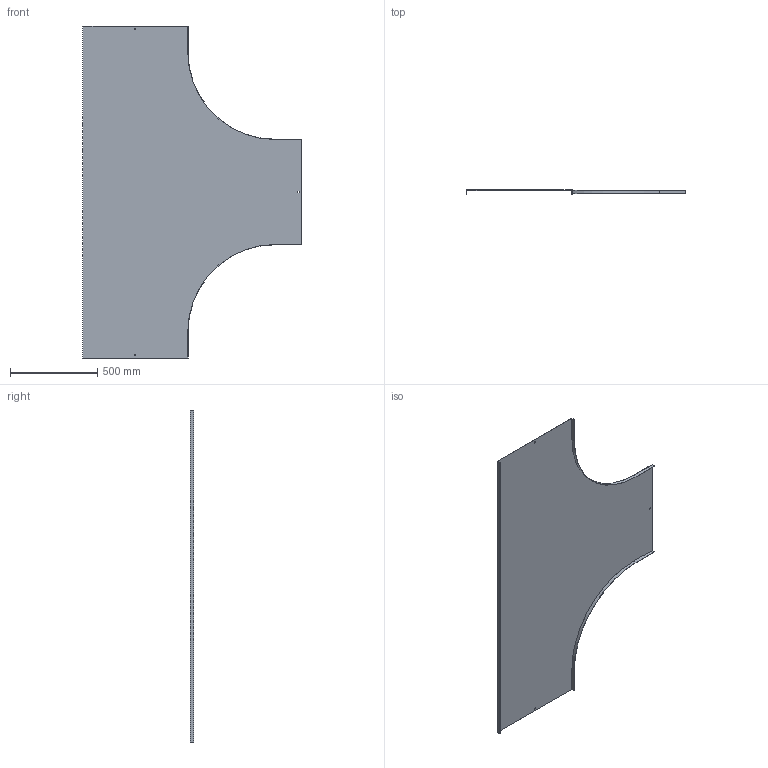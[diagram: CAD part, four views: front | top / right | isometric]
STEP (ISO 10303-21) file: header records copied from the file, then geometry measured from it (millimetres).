
FILE_DESCRIPTION (( 'STEP AP214' ), '1' );
FILE_NAME ('15N5R600.step', '2025-02-21T12:06:09', ( '' ), ( '' ), 'SwSTEP 2.0', 'SolidWorks 2023', '' );
FILE_SCHEMA (( 'AUTOMOTIVE_DESIGN' ));
Length unit declared in the file: millimetre
Products named in the file (1): 15N5R600
Bounding box: 1251.5 x 20 x 1900 mm (x, y, z)
Volume: 2577741.3 mm3; surface area: 3446107.1 mm2
Topology: 1 solids, 1 shells, 34 faces, 96 edges, 64 vertices
Faces by surface type: plane 30, cylinder 4
Entity records: 1123 total; most frequent: CARTESIAN_POINT 195, ORIENTED_EDGE 192, DIRECTION 174, EDGE_CURVE 96, VECTOR 88, LINE 88, VERTEX_POINT 64, AXIS2_PLACEMENT_3D 43
